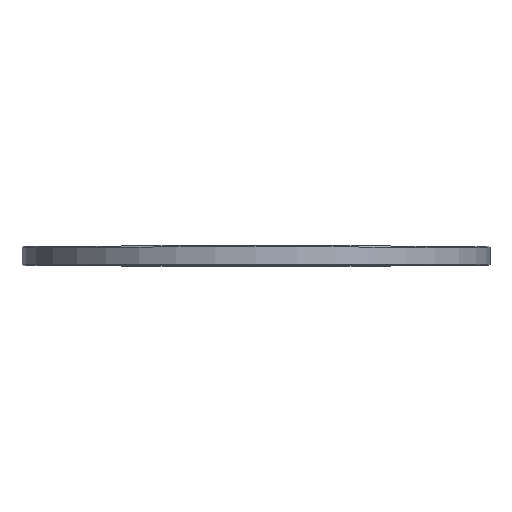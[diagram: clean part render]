
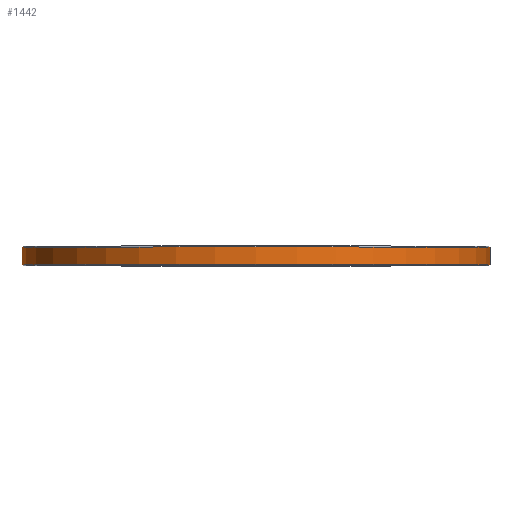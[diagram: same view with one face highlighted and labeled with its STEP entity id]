
A CAD part, top view. The second image highlights one B-rep face of the part: STEP entity #1442.
In plain terms, the highlighted cylindrical face has radius 677.5 mm (diameter 1355 mm), a full revolution.
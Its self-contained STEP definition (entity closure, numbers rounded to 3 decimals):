
#278=ORIENTED_EDGE('',*,*,#488,.T.);
#279=ORIENTED_EDGE('',*,*,#489,.T.);
#488=EDGE_CURVE('',#624,#624,#760,.F.);
#489=EDGE_CURVE('',#625,#625,#761,.T.);
#624=VERTEX_POINT('',#2536);
#625=VERTEX_POINT('',#2538);
#760=CIRCLE('',#1686,677.5);
#761=CIRCLE('',#1687,677.5);
#958=EDGE_LOOP('',(#278));
#959=EDGE_LOOP('',(#279));
#1230=FACE_BOUND('',#958,.T.);
#1231=FACE_BOUND('',#959,.T.);
#1346=CYLINDRICAL_SURFACE('',#1685,677.5);
#1442=ADVANCED_FACE('',(#1230,#1231),#1346,.T.);
#1685=AXIS2_PLACEMENT_3D('',#2534,#2147,#2148);
#1686=AXIS2_PLACEMENT_3D('',#2535,#2149,#2150);
#1687=AXIS2_PLACEMENT_3D('',#2537,#2151,#2152);
#2147=DIRECTION('',(0.,-1.,0.));
#2148=DIRECTION('',(0.,0.,-1.));
#2149=DIRECTION('',(0.,1.,0.));
#2150=DIRECTION('',(0.,0.,1.));
#2151=DIRECTION('',(0.,1.,0.));
#2152=DIRECTION('',(0.,0.,1.));
#2534=CARTESIAN_POINT('',(0.,56.,0.));
#2535=CARTESIAN_POINT('',(0.,53.,0.));
#2536=CARTESIAN_POINT('',(0.,53.,677.5));
#2537=CARTESIAN_POINT('',(0.,3.,0.));
#2538=CARTESIAN_POINT('',(0.,3.,677.5));
